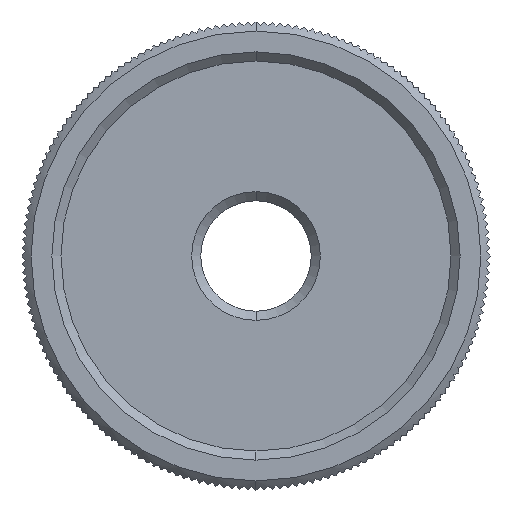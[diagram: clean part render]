
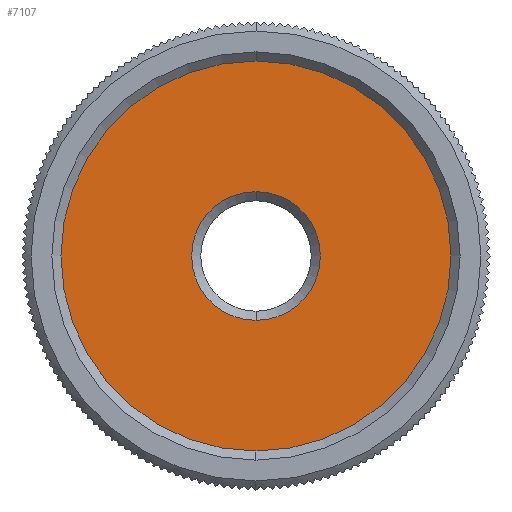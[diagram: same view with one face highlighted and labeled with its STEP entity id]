
A CAD part, left-side view. The second image highlights one B-rep face of the part: STEP entity #7107.
In plain terms, the highlighted planar face has unit normal (-1, 0, 0).
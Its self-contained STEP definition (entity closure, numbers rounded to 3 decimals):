
#828 = DIRECTION ( 'NONE',  ( 0., 0., 1. ) ) ;
#829 = DIRECTION ( 'NONE',  ( -1., 0., 0. ) ) ;
#830 = CARTESIAN_POINT ( 'NONE',  ( -6., 0., 0. ) ) ;
#831 = AXIS2_PLACEMENT_3D ( 'NONE', #830, #829, #828 ) ;
#832 = PLANE ( 'NONE',  #831 ) ;
#838 = FACE_OUTER_BOUND ( 'NONE', #7114, .T. ) ;
#839 = FACE_BOUND ( 'NONE', #7108, .T. ) ;
#865 = DIRECTION ( 'NONE',  ( 0., 0., 1. ) ) ;
#866 = DIRECTION ( 'NONE',  ( -1., 0., 0. ) ) ;
#867 = AXIS2_PLACEMENT_3D ( 'NONE', #873, #866, #865 ) ;
#868 = CIRCLE ( 'NONE', #867, 15. ) ;
#869 = DIRECTION ( 'NONE',  ( 0., 0., 1. ) ) ;
#870 = DIRECTION ( 'NONE',  ( 1., 0., 0. ) ) ;
#871 = AXIS2_PLACEMENT_3D ( 'NONE', #877, #870, #869 ) ;
#872 = CIRCLE ( 'NONE', #871, 4.95 ) ;
#873 = CARTESIAN_POINT ( 'NONE',  ( -6., 0., 0. ) ) ;
#877 = CARTESIAN_POINT ( 'NONE',  ( -6., 0., 0. ) ) ;
#1299 = CARTESIAN_POINT ( 'NONE',  ( -6., 0., -15. ) ) ;
#1398 = DIRECTION ( 'NONE',  ( 0., 0., 1. ) ) ;
#1399 = DIRECTION ( 'NONE',  ( -1., 0., 0. ) ) ;
#1400 = CARTESIAN_POINT ( 'NONE',  ( -6., 0., 0. ) ) ;
#1401 = AXIS2_PLACEMENT_3D ( 'NONE', #1400, #1399, #1398 ) ;
#1402 = CIRCLE ( 'NONE', #1401, 15. ) ;
#1409 = CARTESIAN_POINT ( 'NONE',  ( -6., 0., 15. ) ) ;
#1431 = CARTESIAN_POINT ( 'NONE',  ( -6., 0., 4.95 ) ) ;
#1437 = DIRECTION ( 'NONE',  ( 0., 0., 1. ) ) ;
#1438 = DIRECTION ( 'NONE',  ( 1., 0., 0. ) ) ;
#1439 = CARTESIAN_POINT ( 'NONE',  ( -6., 0., 0. ) ) ;
#1440 = AXIS2_PLACEMENT_3D ( 'NONE', #1439, #1438, #1437 ) ;
#1441 = CIRCLE ( 'NONE', #1440, 4.95 ) ;
#1449 = CARTESIAN_POINT ( 'NONE',  ( -6., 0., -4.95 ) ) ;
#7107 = ADVANCED_FACE ( 'NONE', ( #839, #838 ), #832, .T. ) ;
#7108 = EDGE_LOOP ( 'NONE', ( #7110, #7112 ) ) ;
#7110 = ORIENTED_EDGE ( 'NONE', *, *, #7432, .T. ) ;
#7112 = ORIENTED_EDGE ( 'NONE', *, *, #7113, .T. ) ;
#7113 = EDGE_CURVE ( 'NONE', #7426, #7436, #872, .T. ) ;
#7114 = EDGE_LOOP ( 'NONE', ( #7115, #7162 ) ) ;
#7115 = ORIENTED_EDGE ( 'NONE', *, *, #7117, .T. ) ;
#7117 = EDGE_CURVE ( 'NONE', #7418, #7367, #868, .T. ) ;
#7162 = ORIENTED_EDGE ( 'NONE', *, *, #7422, .T. ) ;
#7367 = VERTEX_POINT ( 'NONE', #1299 ) ;
#7418 = VERTEX_POINT ( 'NONE', #1409 ) ;
#7422 = EDGE_CURVE ( 'NONE', #7367, #7418, #1402, .T. ) ;
#7426 = VERTEX_POINT ( 'NONE', #1449 ) ;
#7432 = EDGE_CURVE ( 'NONE', #7436, #7426, #1441, .T. ) ;
#7436 = VERTEX_POINT ( 'NONE', #1431 ) ;
